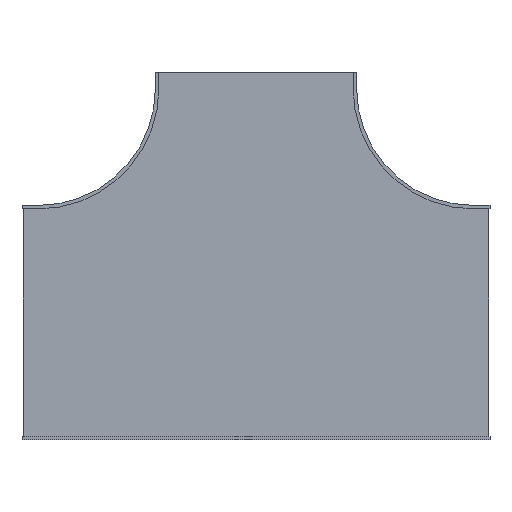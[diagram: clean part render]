
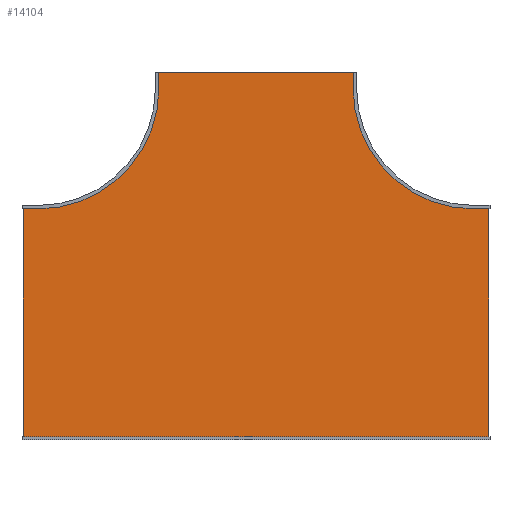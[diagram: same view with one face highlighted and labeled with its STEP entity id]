
A CAD part, front view. The second image highlights one B-rep face of the part: STEP entity #14104.
In plain terms, the highlighted planar face has unit normal (0, -1, 0).
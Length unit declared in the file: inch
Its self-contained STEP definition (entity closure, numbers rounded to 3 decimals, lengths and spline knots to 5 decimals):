
#13913=DIRECTION('',(1.,0.,0.));
#13914=VECTOR('',#13913,35.875);
#13915=CARTESIAN_POINT('',(-17.9375,0.,0.));
#13916=LINE('',#13915,#13914);
#13917=DIRECTION('',(0.,0.,-1.));
#13918=VECTOR('',#13917,2.875);
#13919=CARTESIAN_POINT('',(17.9375,0.,0.));
#13920=LINE('',#13919,#13918);
#13921=CARTESIAN_POINT('',(39.,0.,-2.875));
#13922=DIRECTION('',(0.,-1.,0.));
#13923=DIRECTION('',(-1.,0.,0.));
#13924=AXIS2_PLACEMENT_3D('',#13921,#13922,#13923);
#13926=DIRECTION('',(1.,0.,0.));
#13927=VECTOR('',#13926,2.875);
#13928=CARTESIAN_POINT('',(39.,0.,-23.9375));
#13929=LINE('',#13928,#13927);
#13930=DIRECTION('',(0.,0.,-1.));
#13931=VECTOR('',#13930,41.875);
#13932=CARTESIAN_POINT('',(41.875,0.,-23.9375));
#13933=LINE('',#13932,#13931);
#13934=DIRECTION('',(-1.,0.,0.));
#13935=VECTOR('',#13934,83.75);
#13936=CARTESIAN_POINT('',(41.875,0.,-65.8125));
#13937=LINE('',#13936,#13935);
#13938=DIRECTION('',(0.,0.,1.));
#13939=VECTOR('',#13938,41.875);
#13940=CARTESIAN_POINT('',(-41.875,0.,-65.8125));
#13941=LINE('',#13940,#13939);
#13942=DIRECTION('',(1.,0.,0.));
#13943=VECTOR('',#13942,2.875);
#13944=CARTESIAN_POINT('',(-41.875,0.,-23.9375));
#13945=LINE('',#13944,#13943);
#13946=CARTESIAN_POINT('',(-39.,0.,-2.875));
#13947=DIRECTION('',(0.,-1.,0.));
#13948=DIRECTION('',(0.,0.,-1.));
#13949=AXIS2_PLACEMENT_3D('',#13946,#13947,#13948);
#13951=DIRECTION('',(0.,0.,1.));
#13952=VECTOR('',#13951,2.875);
#13953=CARTESIAN_POINT('',(-17.9375,0.,-2.875));
#13954=LINE('',#13953,#13952);
#14037=CARTESIAN_POINT('',(-17.9375,0.,0.));
#14038=CARTESIAN_POINT('',(17.9375,0.,0.));
#14039=VERTEX_POINT('',#14037);
#14040=VERTEX_POINT('',#14038);
#14041=CARTESIAN_POINT('',(17.9375,0.,-2.875));
#14042=VERTEX_POINT('',#14041);
#14043=CARTESIAN_POINT('',(39.,0.,-23.9375));
#14044=VERTEX_POINT('',#14043);
#14045=CARTESIAN_POINT('',(41.875,0.,-23.9375));
#14046=VERTEX_POINT('',#14045);
#14047=CARTESIAN_POINT('',(41.875,0.,-65.8125));
#14048=VERTEX_POINT('',#14047);
#14049=CARTESIAN_POINT('',(-41.875,0.,-65.8125));
#14050=VERTEX_POINT('',#14049);
#14051=CARTESIAN_POINT('',(-41.875,0.,-23.9375));
#14052=VERTEX_POINT('',#14051);
#14053=CARTESIAN_POINT('',(-39.,0.,-23.9375));
#14054=VERTEX_POINT('',#14053);
#14055=CARTESIAN_POINT('',(-17.9375,0.,-2.875));
#14056=VERTEX_POINT('',#14055);
#14077=CARTESIAN_POINT('',(0.,0.,0.));
#14078=DIRECTION('',(0.,1.,0.));
#14079=DIRECTION('',(1.,0.,0.));
#14080=AXIS2_PLACEMENT_3D('',#14077,#14078,#14079);
#14081=PLANE('',#14080);
#14083=ORIENTED_EDGE('',*,*,#14082,.T.);
#14085=ORIENTED_EDGE('',*,*,#14084,.T.);
#14087=ORIENTED_EDGE('',*,*,#14086,.T.);
#14089=ORIENTED_EDGE('',*,*,#14088,.T.);
#14091=ORIENTED_EDGE('',*,*,#14090,.T.);
#14093=ORIENTED_EDGE('',*,*,#14092,.T.);
#14095=ORIENTED_EDGE('',*,*,#14094,.T.);
#14097=ORIENTED_EDGE('',*,*,#14096,.T.);
#14099=ORIENTED_EDGE('',*,*,#14098,.T.);
#14101=ORIENTED_EDGE('',*,*,#14100,.T.);
#14102=EDGE_LOOP('',(#14083,#14085,#14087,#14089,#14091,#14093,#14095,#14097,
#14099,#14101));
#14103=FACE_OUTER_BOUND('',#14102,.F.);
#14104=ADVANCED_FACE('',(#14103),#14081,.F.);
#13925=CIRCLE('',#13924,21.0625);
#13950=CIRCLE('',#13949,21.0625);
#14082=EDGE_CURVE('',#14039,#14040,#13916,.T.);
#14084=EDGE_CURVE('',#14040,#14042,#13920,.T.);
#14086=EDGE_CURVE('',#14042,#14044,#13925,.T.);
#14088=EDGE_CURVE('',#14044,#14046,#13929,.T.);
#14090=EDGE_CURVE('',#14046,#14048,#13933,.T.);
#14092=EDGE_CURVE('',#14048,#14050,#13937,.T.);
#14094=EDGE_CURVE('',#14050,#14052,#13941,.T.);
#14096=EDGE_CURVE('',#14052,#14054,#13945,.T.);
#14098=EDGE_CURVE('',#14054,#14056,#13950,.T.);
#14100=EDGE_CURVE('',#14056,#14039,#13954,.T.);
